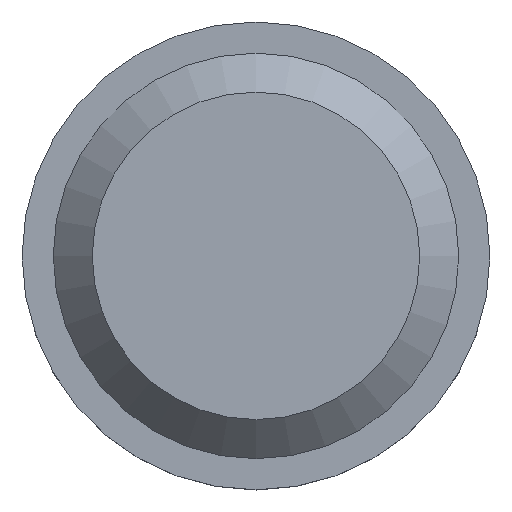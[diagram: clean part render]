
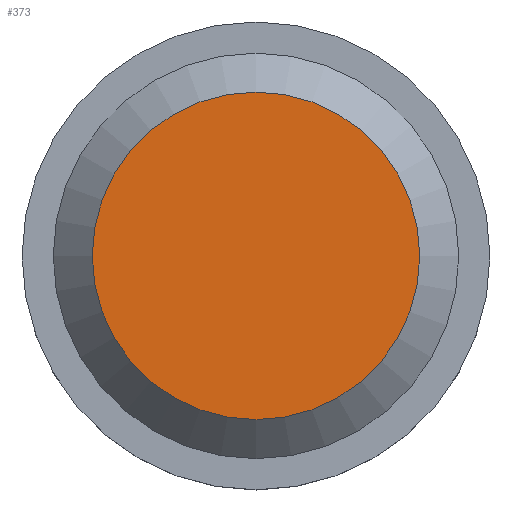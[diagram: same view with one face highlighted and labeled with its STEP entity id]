
A CAD part, top view. The second image highlights one B-rep face of the part: STEP entity #373.
In plain terms, the highlighted planar face has unit normal (0, 0, 1).
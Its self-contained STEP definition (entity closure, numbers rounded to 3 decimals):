
#344=CARTESIAN_POINT('',(24.528,15.188,46.369));
#345=VERTEX_POINT('',#344);
#352=CARTESIAN_POINT('',(15.078,15.188,46.369));
#353=DIRECTION('',(-0.,-0.,1.));
#354=DIRECTION('',(1.,0.,0.));
#355=AXIS2_PLACEMENT_3D('',#352,#353,#354);
#356=CIRCLE('',#355,9.45);
#357=EDGE_CURVE('',#345,#345,#356,.T.);
#365=CARTESIAN_POINT('',(15.078,15.188,46.369));
#366=DIRECTION('',(0.,0.,1.));
#367=DIRECTION('',(1.,0.,0.));
#368=AXIS2_PLACEMENT_3D('',#365,#366,#367);
#369=PLANE('',#368);
#370=ORIENTED_EDGE('',*,*,#357,.T.);
#371=EDGE_LOOP('',(#370));
#372=FACE_BOUND('',#371,.T.);
#373=ADVANCED_FACE('',(#372),#369,.T.);
